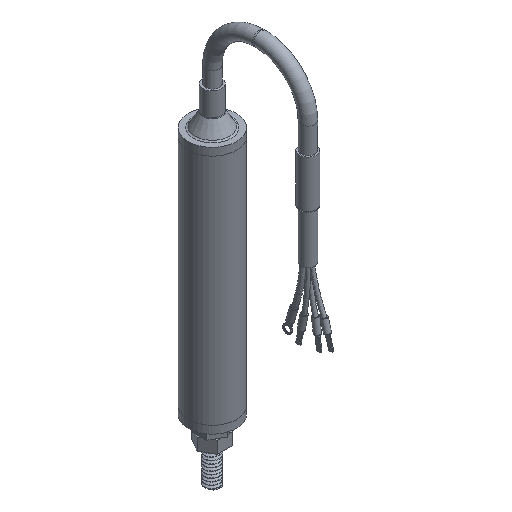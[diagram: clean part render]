
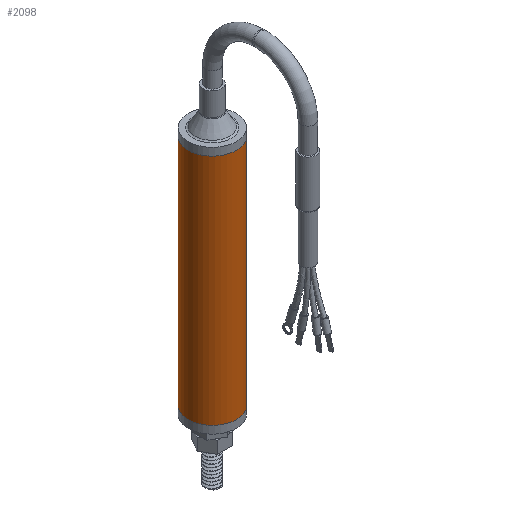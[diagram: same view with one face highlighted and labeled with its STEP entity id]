
A CAD part, isometric view. The second image highlights one B-rep face of the part: STEP entity #2098.
In plain terms, the highlighted cylindrical face has radius 6.35 mm (diameter 12.7 mm), a full revolution.
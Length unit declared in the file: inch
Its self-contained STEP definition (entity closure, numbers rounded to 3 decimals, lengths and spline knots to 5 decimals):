
#98=LINE('',#3299,#245);
#245=VECTOR('',#2701,0.25);
#391=CYLINDRICAL_SURFACE('',#2416,0.25);
#462=FACE_OUTER_BOUND('',#600,.T.);
#600=EDGE_LOOP('',(#1364,#1365,#1366,#1367,#1368));
#744=CIRCLE('',#2404,0.25);
#745=CIRCLE('',#2405,0.25);
#750=CIRCLE('',#2414,0.25);
#846=VERTEX_POINT('',#3276);
#847=VERTEX_POINT('',#3278);
#852=VERTEX_POINT('',#3294);
#1043=EDGE_CURVE('',#847,#846,#744,.T.);
#1044=EDGE_CURVE('',#846,#847,#745,.T.);
#1051=EDGE_CURVE('',#852,#852,#750,.T.);
#1052=EDGE_CURVE('',#852,#847,#98,.T.);
#1364=ORIENTED_EDGE('',*,*,#1051,.F.);
#1365=ORIENTED_EDGE('',*,*,#1052,.T.);
#1366=ORIENTED_EDGE('',*,*,#1043,.T.);
#1367=ORIENTED_EDGE('',*,*,#1044,.T.);
#1368=ORIENTED_EDGE('',*,*,#1052,.F.);
#2098=ADVANCED_FACE('',(#462),#391,.T.);
#2404=AXIS2_PLACEMENT_3D('',#3279,#2673,#2674);
#2405=AXIS2_PLACEMENT_3D('',#3280,#2675,#2676);
#2414=AXIS2_PLACEMENT_3D('',#3296,#2695,#2696);
#2416=AXIS2_PLACEMENT_3D('',#3298,#2699,#2700);
#2673=DIRECTION('center_axis',(0.,0.,-1.));
#2674=DIRECTION('ref_axis',(-1.,0.,0.));
#2675=DIRECTION('center_axis',(0.,0.,-1.));
#2676=DIRECTION('ref_axis',(-1.,0.,0.));
#2695=DIRECTION('center_axis',(0.,0.,-1.));
#2696=DIRECTION('ref_axis',(-1.,0.,0.));
#2699=DIRECTION('center_axis',(0.,0.,-1.));
#2700=DIRECTION('ref_axis',(-1.,0.,0.));
#2701=DIRECTION('',(0.,0.,1.));
#3276=CARTESIAN_POINT('',(0.,0.25,0.));
#3278=CARTESIAN_POINT('',(0.25,0.,0.));
#3279=CARTESIAN_POINT('Origin',(0.,0.,0.));
#3280=CARTESIAN_POINT('Origin',(0.,0.,0.));
#3294=CARTESIAN_POINT('',(0.25,0.,-2.40157));
#3296=CARTESIAN_POINT('Origin',(0.,0.,-2.40157));
#3298=CARTESIAN_POINT('Origin',(0.,0.,0.));
#3299=CARTESIAN_POINT('',(0.25,0.,0.));
